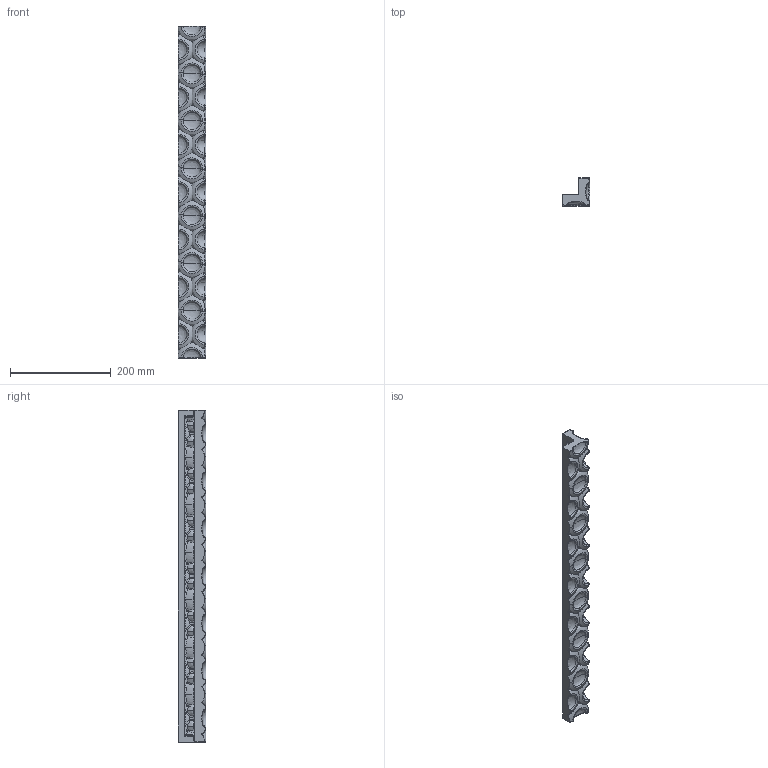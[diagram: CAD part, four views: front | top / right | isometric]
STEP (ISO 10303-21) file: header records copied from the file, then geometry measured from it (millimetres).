
FILE_DESCRIPTION(/* description */ (''),/* implementation_level */ '2;1');
FILE_NAME(/* name */ 'BO6610~1',/* time_stamp */ '2025-06-17T09:04:58+02:00',/* author */ (''),/* organization */ (''),/* preprocessor_version */ 'ST-DEVELOPER v15',/* originating_system */ '',/* authorisation */ '');
FILE_SCHEMA (('AUTOMOTIVE_DESIGN'));
Products named in the file (1): Document
Bounding box: 55.05 x 55.05 x 660 mm (x, y, z)
Volume: 993164.9 mm3; surface area: 156111.4 mm2
Topology: 1 solids, 1 shells, 1268 faces, 3207 edges, 1756 vertices
Faces by surface type: bspline 1260, plane 8
Entity records: 204220 total; most frequent: CARTESIAN_POINT 187986, ORIENTED_EDGE 6044, EDGE_CURVE 3022, VERTEX_POINT 1756, B_SPLINE_CURVE_WITH_KNOTS 1394, ADVANCED_FACE 1268, FACE_OUTER_BOUND 1268, EDGE_LOOP 1268
